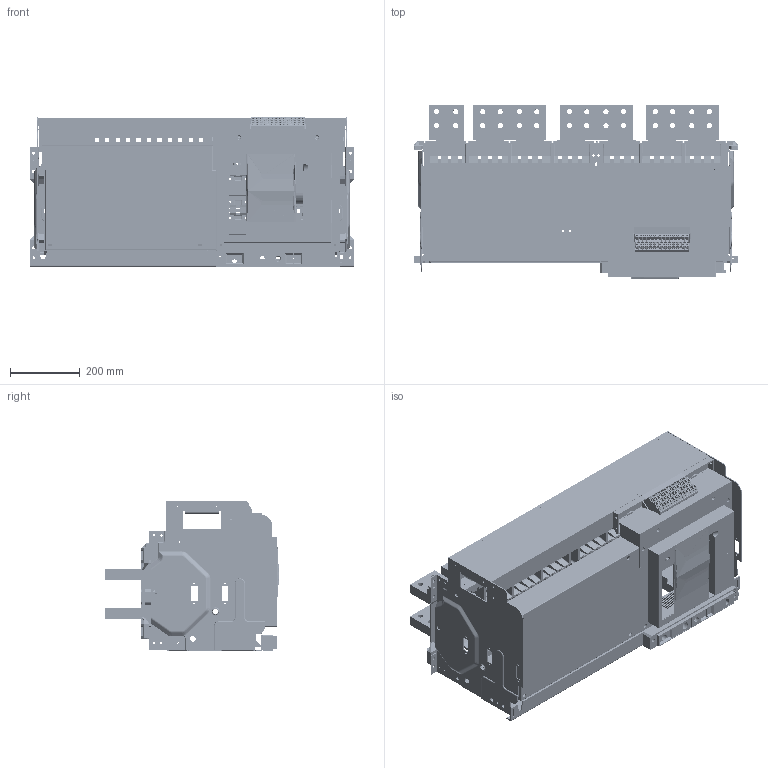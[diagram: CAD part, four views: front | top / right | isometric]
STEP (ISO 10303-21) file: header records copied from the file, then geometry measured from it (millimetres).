
FILE_DESCRIPTION((''),'2;1');
FILE_NAME('NA8G-6300-5000-4P_ASM','2020-05-13T09:19:46',('lcc'),(''),'CREO PARAMETRIC BY PTC INC, 2018020','CREO PARAMETRIC BY PTC INC, 2018020','');
FILE_SCHEMA(('CONFIG_CONTROL_DESIGN','SHAPE_APPEARANCE_LAYERS_GROUPS'));
Products named in the file (34): 8ZTD-024-458-4P; 8ZTD-300-043; 8-050-234; 8-050-235; 5ZTD-300-085-2; 8-060-145-3; NA8G-6300-4P-ZHAO; 8-253-289; 8-253-290; 6_360_001_61; 6_360_001_64; NA8G-6300-5000-A; 8ZTD-160-063; 8ZTD-160-061; 5ZTD-580-059_ASM; NA8G-6300-5000-B; 5ZTD-580-060_ASM; NA8G-6300-5000-N; 5ZTD-580-058_ASM; 8ZTD-300-253; 8ZTD-024-837; 8ZTD-557-514; 8ZTD-557-515; 8ZTD-557-516; 8ZTD-557-517; M3_GB6170_4_1; M3X8_GB818_10_1; 8ZTD-141-185; 8ZTD-141-184; 5ZTD-558-712_ASM; 8ZTD-860-699; 8ZTD-064-136; 5ZTD-558-695-4000_ASM; NA8G-6300-5000-4P_ASM
Assembly tree (65 placements, depth 4):
  NA8G-6300-5000-4P_ASM
    8ZTD-024-458-4P
    8ZTD-300-043
    8-050-234
    8-050-235
    5ZTD-300-085-2
    8-060-145-3
    NA8G-6300-4P-ZHAO
    8-253-289
    8-253-290
    6_360_001_61
    6_360_001_64
    5ZTD-580-059_ASM  x4
      NA8G-6300-5000-A
      8ZTD-160-063
      8ZTD-160-061
    5ZTD-580-060_ASM  x2
      NA8G-6300-5000-B
      8ZTD-160-063
      8ZTD-160-061
    5ZTD-580-058_ASM  x2
      NA8G-6300-5000-N
      8ZTD-160-063
      8ZTD-160-061
    8ZTD-300-253
    5ZTD-558-695-4000_ASM
      5ZTD-558-712_ASM  x14
        8ZTD-024-837
        8ZTD-557-514
        8ZTD-557-515
        8ZTD-557-516
        8ZTD-557-517
        M3_GB6170_4_1
        M3X8_GB818_10_1
        8ZTD-141-185
        8ZTD-141-184
      8ZTD-860-699
      8ZTD-064-136
Bounding box: 930 x 501 x 431.03 mm (x, y, z)
Volume: 15322198.9 mm3; surface area: 6015255.3 mm2
Topology: 260 solids, 270 shells, 22826 faces, 61475 edges, 39229 vertices
Faces by surface type: plane 15068, cylinder 5081, cone 1024, bspline 819, sphere 459, torus 375
Entity records: 298146 total; most frequent: CARTESIAN_POINT 51885, ORIENTED_EDGE 42519, DIRECTION 40945, EDGE_CURVE 21289, VECTOR 15501, LINE 15501, VERTEX_POINT 13401, AXIS2_PLACEMENT_3D 12722
